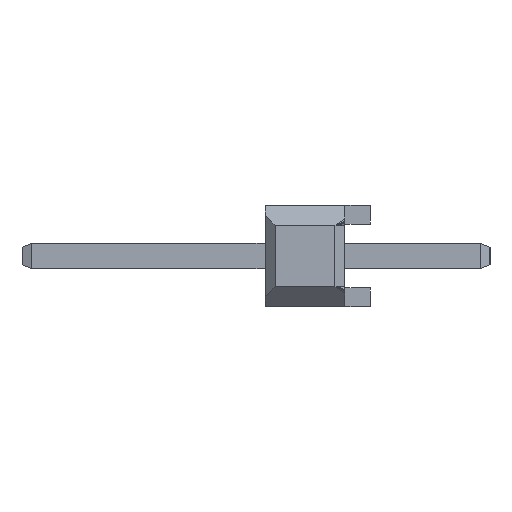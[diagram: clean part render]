
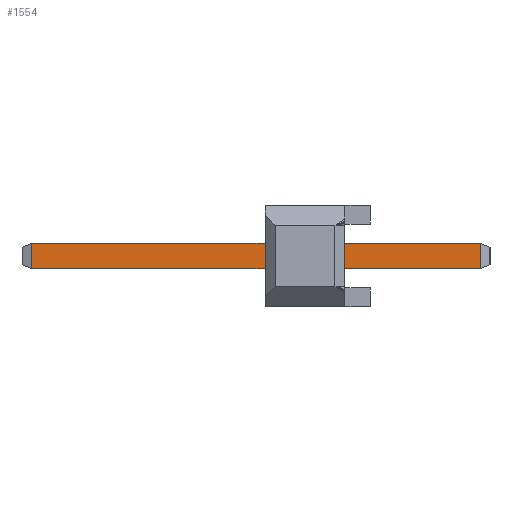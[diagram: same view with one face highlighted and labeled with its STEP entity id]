
A CAD part, left-side view. The second image highlights one B-rep face of the part: STEP entity #1554.
In plain terms, the highlighted planar face has unit normal (-1, 0, 0).
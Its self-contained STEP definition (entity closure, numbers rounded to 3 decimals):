
#1434 = EDGE_CURVE('',#1435,#1437,#1439,.T.);
#1435 = VERTEX_POINT('',#1436);
#1436 = CARTESIAN_POINT('',(-0.32,8.49,-0.32));
#1437 = VERTEX_POINT('',#1438);
#1438 = CARTESIAN_POINT('',(-0.32,-2.75,-0.32));
#1439 = LINE('',#1440,#1441);
#1440 = CARTESIAN_POINT('',(-0.32,8.74,-0.32));
#1441 = VECTOR('',#1442,1.);
#1442 = DIRECTION('',(0.,-1.,0.));
#1529 = VERTEX_POINT('',#1530);
#1530 = CARTESIAN_POINT('',(-0.32,-2.75,0.32));
#1536 = EDGE_CURVE('',#1537,#1529,#1539,.T.);
#1537 = VERTEX_POINT('',#1538);
#1538 = CARTESIAN_POINT('',(-0.32,8.49,0.32));
#1539 = LINE('',#1540,#1541);
#1540 = CARTESIAN_POINT('',(-0.32,8.74,0.32));
#1541 = VECTOR('',#1542,1.);
#1542 = DIRECTION('',(0.,-1.,0.));
#1554 = ADVANCED_FACE('',(#1555),#1571,.F.);
#1555 = FACE_BOUND('',#1556,.F.);
#1556 = EDGE_LOOP('',(#1557,#1558,#1564,#1565));
#1557 = ORIENTED_EDGE('',*,*,#1536,.T.);
#1558 = ORIENTED_EDGE('',*,*,#1559,.T.);
#1559 = EDGE_CURVE('',#1529,#1437,#1560,.T.);
#1560 = LINE('',#1561,#1562);
#1561 = CARTESIAN_POINT('',(-0.32,-2.75,0.32));
#1562 = VECTOR('',#1563,1.);
#1563 = DIRECTION('',(0.,0.,-1.));
#1564 = ORIENTED_EDGE('',*,*,#1434,.F.);
#1565 = ORIENTED_EDGE('',*,*,#1566,.F.);
#1566 = EDGE_CURVE('',#1537,#1435,#1567,.T.);
#1567 = LINE('',#1568,#1569);
#1568 = CARTESIAN_POINT('',(-0.32,8.49,0.32));
#1569 = VECTOR('',#1570,1.);
#1570 = DIRECTION('',(0.,0.,-1.));
#1571 = PLANE('',#1572);
#1572 = AXIS2_PLACEMENT_3D('',#1573,#1574,#1575);
#1573 = CARTESIAN_POINT('',(-0.32,8.74,0.32));
#1574 = DIRECTION('',(1.,0.,0.));
#1575 = DIRECTION('',(0.,0.,-1.));
